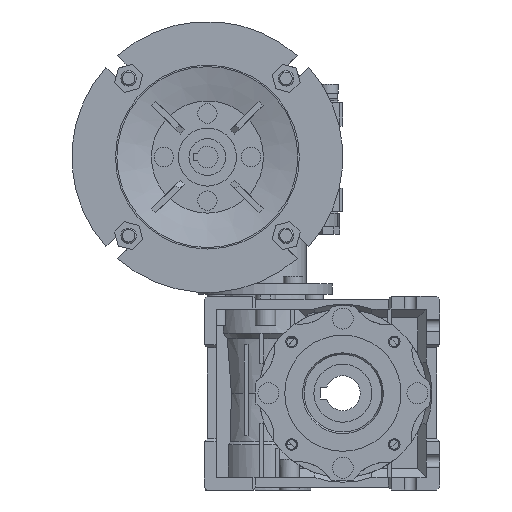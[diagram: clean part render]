
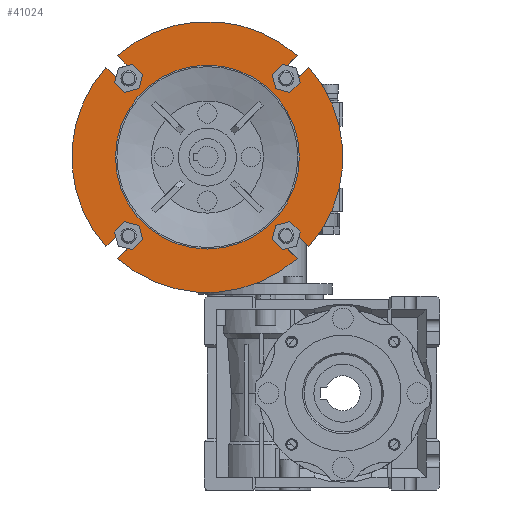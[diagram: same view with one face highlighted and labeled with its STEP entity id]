
A CAD part, left-side view. The second image highlights one B-rep face of the part: STEP entity #41024.
In plain terms, the highlighted planar face has unit normal (-1, 0, 0) as drawn and (1, 0, 0) by its records, which use the part's own axes.
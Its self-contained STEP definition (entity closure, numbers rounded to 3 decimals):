
#1641=CIRCLE('',#43738,70.);
#1642=CIRCLE('',#43740,70.);
#1643=CIRCLE('',#43742,70.);
#1648=CIRCLE('',#43752,70.);
#1649=CIRCLE('',#43754,47.5);
#1650=CIRCLE('',#43755,4.25);
#1651=CIRCLE('',#43756,4.25);
#1652=CIRCLE('',#43757,4.25);
#1653=CIRCLE('',#43758,4.25);
#9638=ORIENTED_EDGE('',*,*,#14190,.F.);
#9639=ORIENTED_EDGE('',*,*,#14191,.T.);
#9640=ORIENTED_EDGE('',*,*,#14188,.T.);
#9641=ORIENTED_EDGE('',*,*,#14192,.T.);
#9642=ORIENTED_EDGE('',*,*,#14193,.F.);
#9643=ORIENTED_EDGE('',*,*,#14194,.T.);
#9644=ORIENTED_EDGE('',*,*,#14174,.T.);
#9645=ORIENTED_EDGE('',*,*,#14195,.T.);
#9646=ORIENTED_EDGE('',*,*,#14196,.F.);
#9647=ORIENTED_EDGE('',*,*,#14197,.T.);
#9648=ORIENTED_EDGE('',*,*,#14181,.T.);
#9649=ORIENTED_EDGE('',*,*,#14198,.T.);
#9650=ORIENTED_EDGE('',*,*,#14199,.F.);
#9651=ORIENTED_EDGE('',*,*,#14200,.T.);
#9652=ORIENTED_EDGE('',*,*,#14178,.T.);
#9653=ORIENTED_EDGE('',*,*,#14201,.T.);
#9654=ORIENTED_EDGE('',*,*,#14202,.F.);
#14174=EDGE_CURVE('',#17097,#17098,#1641,.T.);
#14178=EDGE_CURVE('',#17100,#17099,#1642,.T.);
#14181=EDGE_CURVE('',#17102,#17101,#1643,.T.);
#14188=EDGE_CURVE('',#17108,#17107,#1648,.T.);
#14190=EDGE_CURVE('',#17109,#17109,#1649,.T.);
#14191=EDGE_CURVE('',#17110,#17108,#20107,.T.);
#14192=EDGE_CURVE('',#17107,#17111,#20108,.T.);
#14193=EDGE_CURVE('',#17112,#17111,#1650,.T.);
#14194=EDGE_CURVE('',#17112,#17097,#20109,.T.);
#14195=EDGE_CURVE('',#17098,#17113,#20110,.T.);
#14196=EDGE_CURVE('',#17114,#17113,#1651,.T.);
#14197=EDGE_CURVE('',#17114,#17102,#20111,.T.);
#14198=EDGE_CURVE('',#17101,#17115,#20112,.T.);
#14199=EDGE_CURVE('',#17116,#17115,#1652,.T.);
#14200=EDGE_CURVE('',#17116,#17100,#20113,.T.);
#14201=EDGE_CURVE('',#17099,#17117,#20114,.T.);
#14202=EDGE_CURVE('',#17110,#17117,#1653,.T.);
#17097=VERTEX_POINT('',#61170);
#17098=VERTEX_POINT('',#61171);
#17099=VERTEX_POINT('',#61176);
#17100=VERTEX_POINT('',#61178);
#17101=VERTEX_POINT('',#61182);
#17102=VERTEX_POINT('',#61184);
#17107=VERTEX_POINT('',#61200);
#17108=VERTEX_POINT('',#61202);
#17109=VERTEX_POINT('',#61206);
#17110=VERTEX_POINT('',#61208);
#17111=VERTEX_POINT('',#61210);
#17112=VERTEX_POINT('',#61212);
#17113=VERTEX_POINT('',#61215);
#17114=VERTEX_POINT('',#61217);
#17115=VERTEX_POINT('',#61220);
#17116=VERTEX_POINT('',#61222);
#17117=VERTEX_POINT('',#61225);
#20107=LINE('',#61207,#23141);
#20108=LINE('',#61209,#23142);
#20109=LINE('',#61213,#23143);
#20110=LINE('',#61214,#23144);
#20111=LINE('',#61218,#23145);
#20112=LINE('',#61219,#23146);
#20113=LINE('',#61223,#23147);
#20114=LINE('',#61224,#23148);
#23141=VECTOR('',#51762,1000.);
#23142=VECTOR('',#51763,1000.);
#23143=VECTOR('',#51766,1000.);
#23144=VECTOR('',#51767,1000.);
#23145=VECTOR('',#51770,1000.);
#23146=VECTOR('',#51771,1000.);
#23147=VECTOR('',#51774,1000.);
#23148=VECTOR('',#51775,1000.);
#25017=EDGE_LOOP('',(#9638));
#25018=EDGE_LOOP('',(#9639,#9640,#9641,#9642,#9643,#9644,#9645,#9646,#9647,
#9648,#9649,#9650,#9651,#9652,#9653,#9654));
#26917=FACE_BOUND('',#25017,.T.);
#26918=FACE_BOUND('',#25018,.T.);
#28191=PLANE('',#43753);
#41024=ADVANCED_FACE('',(#26917,#26918),#28191,.F.);
#43738=AXIS2_PLACEMENT_3D('',#61169,#51720,#51721);
#43740=AXIS2_PLACEMENT_3D('',#61177,#51727,#51728);
#43742=AXIS2_PLACEMENT_3D('',#61183,#51733,#51734);
#43752=AXIS2_PLACEMENT_3D('',#61201,#51755,#51756);
#43753=AXIS2_PLACEMENT_3D('',#61204,#51758,#51759);
#43754=AXIS2_PLACEMENT_3D('',#61205,#51760,#51761);
#43755=AXIS2_PLACEMENT_3D('',#61211,#51764,#51765);
#43756=AXIS2_PLACEMENT_3D('',#61216,#51768,#51769);
#43757=AXIS2_PLACEMENT_3D('',#61221,#51772,#51773);
#43758=AXIS2_PLACEMENT_3D('',#61226,#51776,#51777);
#51720=DIRECTION('',(1.,0.,0.));
#51721=DIRECTION('',(0.,0.,-1.));
#51727=DIRECTION('',(1.,0.,0.));
#51728=DIRECTION('',(0.,0.,-1.));
#51733=DIRECTION('',(1.,0.,0.));
#51734=DIRECTION('',(0.,0.,-1.));
#51755=DIRECTION('',(1.,0.,0.));
#51756=DIRECTION('',(0.,0.,-1.));
#51758=DIRECTION('',(-1.,0.,0.));
#51759=DIRECTION('',(0.,0.,1.));
#51760=DIRECTION('',(1.,0.,0.));
#51761=DIRECTION('',(0.,0.,-1.));
#51762=DIRECTION('',(0.,0.707,-0.707));
#51763=DIRECTION('',(0.,-0.707,-0.707));
#51764=DIRECTION('',(1.,0.,0.));
#51765=DIRECTION('',(0.,0.,-1.));
#51766=DIRECTION('',(0.,0.707,0.707));
#51767=DIRECTION('',(0.,0.707,-0.707));
#51768=DIRECTION('',(1.,0.,0.));
#51769=DIRECTION('',(0.,0.,-1.));
#51770=DIRECTION('',(0.,-0.707,0.707));
#51771=DIRECTION('',(0.,0.707,0.707));
#51772=DIRECTION('',(1.,0.,0.));
#51773=DIRECTION('',(0.,0.,-1.));
#51774=DIRECTION('',(0.,-0.707,-0.707));
#51775=DIRECTION('',(0.,-0.707,0.707));
#51776=DIRECTION('',(1.,0.,0.));
#51777=DIRECTION('',(0.,0.,-1.));
#61169=CARTESIAN_POINT('',(20.,0.,0.));
#61170=CARTESIAN_POINT('',(20.,46.401,52.411));
#61171=CARTESIAN_POINT('',(20.,-46.401,52.411));
#61176=CARTESIAN_POINT('',(20.,46.401,-52.411));
#61177=CARTESIAN_POINT('',(20.,0.,0.));
#61178=CARTESIAN_POINT('',(20.,-46.401,-52.411));
#61182=CARTESIAN_POINT('',(20.,-52.411,-46.401));
#61183=CARTESIAN_POINT('',(20.,0.,0.));
#61184=CARTESIAN_POINT('',(20.,-52.411,46.401));
#61200=CARTESIAN_POINT('',(20.,52.411,46.401));
#61201=CARTESIAN_POINT('',(20.,0.,0.));
#61202=CARTESIAN_POINT('',(20.,52.411,-46.401));
#61204=CARTESIAN_POINT('',(20.,70.,0.));
#61205=CARTESIAN_POINT('',(20.,0.,0.));
#61206=CARTESIAN_POINT('',(20.,0.,-47.5));
#61207=CARTESIAN_POINT('',(20.,43.664,-37.653));
#61208=CARTESIAN_POINT('',(20.,43.664,-37.653));
#61209=CARTESIAN_POINT('',(20.,52.411,46.401));
#61210=CARTESIAN_POINT('',(20.,43.664,37.653));
#61211=CARTESIAN_POINT('',(20.,40.659,40.659));
#61212=CARTESIAN_POINT('',(20.,37.653,43.664));
#61213=CARTESIAN_POINT('',(20.,37.653,43.664));
#61214=CARTESIAN_POINT('',(20.,-46.401,52.411));
#61215=CARTESIAN_POINT('',(20.,-37.653,43.664));
#61216=CARTESIAN_POINT('',(20.,-40.659,40.659));
#61217=CARTESIAN_POINT('',(20.,-43.664,37.653));
#61218=CARTESIAN_POINT('',(20.,-43.664,37.653));
#61219=CARTESIAN_POINT('',(20.,-52.411,-46.401));
#61220=CARTESIAN_POINT('',(20.,-43.664,-37.653));
#61221=CARTESIAN_POINT('',(20.,-40.659,-40.659));
#61222=CARTESIAN_POINT('',(20.,-37.653,-43.664));
#61223=CARTESIAN_POINT('',(20.,-37.653,-43.664));
#61224=CARTESIAN_POINT('',(20.,46.401,-52.411));
#61225=CARTESIAN_POINT('',(20.,37.653,-43.664));
#61226=CARTESIAN_POINT('',(20.,40.659,-40.659));
